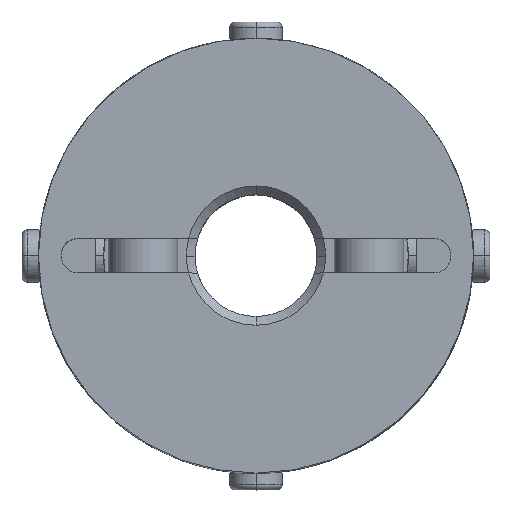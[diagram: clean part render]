
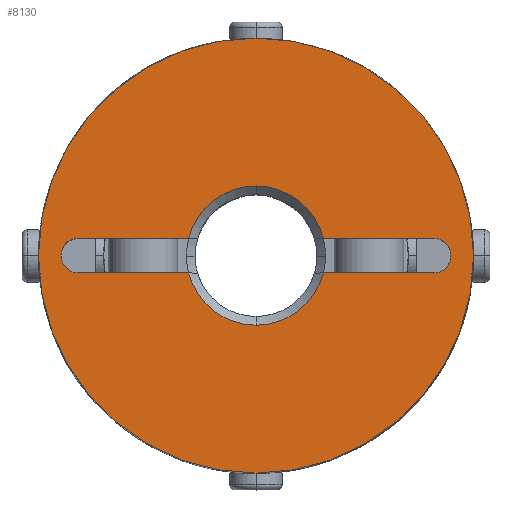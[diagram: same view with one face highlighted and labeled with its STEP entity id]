
A CAD part, top view. The second image highlights one B-rep face of the part: STEP entity #8130.
In plain terms, the highlighted planar face has unit normal (0, 0, 1).
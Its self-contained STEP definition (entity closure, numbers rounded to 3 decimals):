
#885=CARTESIAN_POINT('',(0.,12.5,13.5));
#886=VERTEX_POINT('',#885);
#893=CARTESIAN_POINT('',(0.,-12.5,13.5));
#894=VERTEX_POINT('',#893);
#895=CARTESIAN_POINT('',(0.,0.0,13.5));
#896=DIRECTION('',(0.0,0.0,-1.0));
#897=DIRECTION('',(0.0,-1.0,0.0));
#898=AXIS2_PLACEMENT_3D('',#895,#896,#897);
#899=CIRCLE('',#898,12.5);
#900=EDGE_CURVE('',#886,#894,#899,.T.);
#1153=CARTESIAN_POINT('',(10.907,0.707,13.5));
#1154=VERTEX_POINT('',#1153);
#1170=CARTESIAN_POINT('',(10.2,-1.,13.5));
#1171=VERTEX_POINT('',#1170);
#1178=CARTESIAN_POINT('',(10.2,0.,13.5));
#1179=DIRECTION('',(0.0,0.0,1.0));
#1180=DIRECTION('',(0.707,-0.707,0.0));
#1181=AXIS2_PLACEMENT_3D('',#1178,#1179,#1180);
#1182=CIRCLE('',#1181,1.0);
#1183=EDGE_CURVE('',#1171,#1154,#1182,.T.);
#1195=CARTESIAN_POINT('',(-10.907,-0.707,13.5));
#1196=VERTEX_POINT('',#1195);
#1212=CARTESIAN_POINT('',(-10.2,1.,13.5));
#1213=VERTEX_POINT('',#1212);
#1220=CARTESIAN_POINT('',(-10.2,0.,13.5));
#1221=DIRECTION('',(0.0,0.0,1.0));
#1222=DIRECTION('',(-0.707,0.707,0.0));
#1223=AXIS2_PLACEMENT_3D('',#1220,#1221,#1222);
#1224=CIRCLE('',#1223,1.0);
#1225=EDGE_CURVE('',#1213,#1196,#1224,.T.);
#1235=CARTESIAN_POINT('',(0.,4.0,13.5));
#1236=VERTEX_POINT('',#1235);
#1244=CARTESIAN_POINT('',(3.873,1.,13.5));
#1245=VERTEX_POINT('',#1244);
#1259=CARTESIAN_POINT('',(0.,0.0,13.5));
#1260=DIRECTION('',(0.0,0.0,1.0));
#1261=DIRECTION('',(0.0,1.0,0.0));
#1262=AXIS2_PLACEMENT_3D('',#1259,#1260,#1261);
#1263=CIRCLE('',#1262,4.0);
#1264=EDGE_CURVE('',#1245,#1236,#1263,.T.);
#1276=CARTESIAN_POINT('',(0.,-4.0,13.5));
#1277=VERTEX_POINT('',#1276);
#1293=CARTESIAN_POINT('',(-3.873,-1.,13.5));
#1294=VERTEX_POINT('',#1293);
#1308=CARTESIAN_POINT('',(0.,0.0,13.5));
#1309=DIRECTION('',(0.0,0.0,1.0));
#1310=DIRECTION('',(0.0,-1.0,0.0));
#1311=AXIS2_PLACEMENT_3D('',#1308,#1309,#1310);
#1312=CIRCLE('',#1311,4.0);
#1313=EDGE_CURVE('',#1294,#1277,#1312,.T.);
#7922=CARTESIAN_POINT('',(-10.2,-1.,13.5));
#7923=VERTEX_POINT('',#7922);
#7930=CARTESIAN_POINT('',(-3.873,-1.,13.5));
#7931=DIRECTION('',(-1.0,0.0,0.0));
#7932=VECTOR('',#7931,6.327);
#7933=LINE('',#7930,#7932);
#7934=EDGE_CURVE('',#1294,#7923,#7933,.T.);
#7991=CARTESIAN_POINT('',(-3.873,1.,13.5));
#7992=VERTEX_POINT('',#7991);
#8006=CARTESIAN_POINT('',(-10.2,1.,13.5));
#8007=DIRECTION('',(1.0,0.0,0.0));
#8008=VECTOR('',#8007,6.327);
#8009=LINE('',#8006,#8008);
#8010=EDGE_CURVE('',#1213,#7992,#8009,.T.);
#8027=CARTESIAN_POINT('',(3.873,-1.,13.5));
#8028=VERTEX_POINT('',#8027);
#8029=CARTESIAN_POINT('',(0.,0.0,13.5));
#8030=DIRECTION('',(0.0,0.0,1.0));
#8031=DIRECTION('',(0.0,-1.0,0.0));
#8032=AXIS2_PLACEMENT_3D('',#8029,#8030,#8031);
#8033=CIRCLE('',#8032,4.0);
#8034=EDGE_CURVE('',#1277,#8028,#8033,.T.);
#8061=CARTESIAN_POINT('',(10.2,-1.,13.5));
#8062=DIRECTION('',(-1.0,0.0,0.0));
#8063=VECTOR('',#8062,6.327);
#8064=LINE('',#8061,#8063);
#8065=EDGE_CURVE('',#1171,#8028,#8064,.T.);
#8076=CARTESIAN_POINT('',(0.,-1.136,13.5));
#8077=DIRECTION('',(0.0,0.0,1.0));
#8078=DIRECTION('',(0.0,-1.0,0.0));
#8079=AXIS2_PLACEMENT_3D('',#8076,#8077,#8078);
#8080=PLANE('',#8079);
#8081=CARTESIAN_POINT('',(0.,0.0,13.5));
#8082=DIRECTION('',(0.0,0.0,-1.0));
#8083=DIRECTION('',(0.0,-1.0,0.0));
#8084=AXIS2_PLACEMENT_3D('',#8081,#8082,#8083);
#8085=CIRCLE('',#8084,12.5);
#8086=EDGE_CURVE('',#894,#886,#8085,.T.);
#8087=ORIENTED_EDGE('',*,*,#8086,.F.);
#8088=ORIENTED_EDGE('',*,*,#900,.F.);
#8089=EDGE_LOOP('',(#8087,#8088));
#8090=FACE_OUTER_BOUND('',#8089,.T.);
#8091=ORIENTED_EDGE('',*,*,#1313,.F.);
#8092=ORIENTED_EDGE('',*,*,#7934,.T.);
#8093=CARTESIAN_POINT('',(-10.2,0.,13.5));
#8094=DIRECTION('',(0.0,0.0,1.0));
#8095=DIRECTION('',(-0.707,0.707,0.0));
#8096=AXIS2_PLACEMENT_3D('',#8093,#8094,#8095);
#8097=CIRCLE('',#8096,1.0);
#8098=EDGE_CURVE('',#1196,#7923,#8097,.T.);
#8099=ORIENTED_EDGE('',*,*,#8098,.F.);
#8100=ORIENTED_EDGE('',*,*,#1225,.F.);
#8101=ORIENTED_EDGE('',*,*,#8010,.T.);
#8102=CARTESIAN_POINT('',(0.,0.0,13.5));
#8103=DIRECTION('',(0.0,0.0,1.0));
#8104=DIRECTION('',(0.0,1.0,0.0));
#8105=AXIS2_PLACEMENT_3D('',#8102,#8103,#8104);
#8106=CIRCLE('',#8105,4.0);
#8107=EDGE_CURVE('',#1236,#7992,#8106,.T.);
#8108=ORIENTED_EDGE('',*,*,#8107,.F.);
#8109=ORIENTED_EDGE('',*,*,#1264,.F.);
#8110=CARTESIAN_POINT('',(10.2,1.,13.5));
#8111=VERTEX_POINT('',#8110);
#8112=CARTESIAN_POINT('',(3.873,1.,13.5));
#8113=DIRECTION('',(1.0,0.0,0.0));
#8114=VECTOR('',#8113,6.327);
#8115=LINE('',#8112,#8114);
#8116=EDGE_CURVE('',#1245,#8111,#8115,.T.);
#8117=ORIENTED_EDGE('',*,*,#8116,.T.);
#8118=CARTESIAN_POINT('',(10.2,0.,13.5));
#8119=DIRECTION('',(0.0,0.0,1.0));
#8120=DIRECTION('',(0.707,-0.707,0.0));
#8121=AXIS2_PLACEMENT_3D('',#8118,#8119,#8120);
#8122=CIRCLE('',#8121,1.0);
#8123=EDGE_CURVE('',#1154,#8111,#8122,.T.);
#8124=ORIENTED_EDGE('',*,*,#8123,.F.);
#8125=ORIENTED_EDGE('',*,*,#1183,.F.);
#8126=ORIENTED_EDGE('',*,*,#8065,.T.);
#8127=ORIENTED_EDGE('',*,*,#8034,.F.);
#8128=EDGE_LOOP('',(#8091,#8092,#8099,#8100,#8101,#8108,#8109,#8117,#8124,#8125,#8126,#8127));
#8129=FACE_BOUND('',#8128,.T.);
#8130=ADVANCED_FACE('',(#8090,#8129),#8080,.T.);
